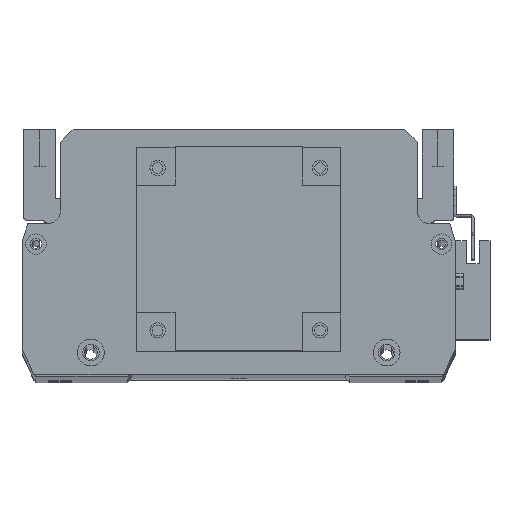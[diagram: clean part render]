
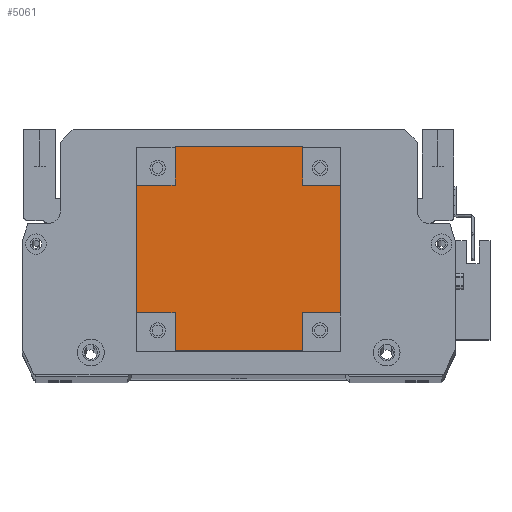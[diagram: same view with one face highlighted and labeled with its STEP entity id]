
A CAD part, top view. The second image highlights one B-rep face of the part: STEP entity #5061.
In plain terms, the highlighted planar face has unit normal (0, 0, 1).
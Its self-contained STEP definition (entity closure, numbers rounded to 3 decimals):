
#335 = CARTESIAN_POINT ( 'NONE',  ( 0., 65., 101.5 ) ) ;
#412 = AXIS2_PLACEMENT_3D ( 'NONE', #24466, #12126, #26517 ) ;
#799 = VERTEX_POINT ( 'NONE', #24603 ) ;
#985 = EDGE_CURVE ( 'NONE', #21465, #7611, #22946, .T. ) ;
#1642 = ORIENTED_EDGE ( 'NONE', *, *, #22476, .T. ) ;
#2123 = VECTOR ( 'NONE', #7867, 1000. ) ;
#2251 = CARTESIAN_POINT ( 'NONE',  ( 65., 15., 101.5 ) ) ;
#2610 = DIRECTION ( 'NONE',  ( 1., 0., 0. ) ) ;
#2777 = CARTESIAN_POINT ( 'NONE',  ( 80., 15., 101.5 ) ) ;
#2808 = VECTOR ( 'NONE', #26504, 1000. ) ;
#2810 = LINE ( 'NONE', #5722, #2123 ) ;
#3061 = EDGE_CURVE ( 'NONE', #799, #10096, #8021, .T. ) ;
#3127 = EDGE_LOOP ( 'NONE', ( #14073, #18592, #12768, #19416, #12407, #12089, #12746, #8766, #13937, #1642, #15988, #13535 ) ) ;
#3758 = PLANE ( 'NONE',  #412 ) ;
#3980 = LINE ( 'NONE', #19376, #25345 ) ;
#4172 = CARTESIAN_POINT ( 'NONE',  ( 65., 0., 101.5 ) ) ;
#4739 = CARTESIAN_POINT ( 'NONE',  ( 15., 15., 101.5 ) ) ;
#4941 = VERTEX_POINT ( 'NONE', #5648 ) ;
#5061 = ADVANCED_FACE ( 'NONE', ( #20516 ), #3758, .F. ) ;
#5648 = CARTESIAN_POINT ( 'NONE',  ( 0., 65., 101.5 ) ) ;
#5722 = CARTESIAN_POINT ( 'NONE',  ( 0., 15., 101.5 ) ) ;
#6185 = VERTEX_POINT ( 'NONE', #21420 ) ;
#6261 = VERTEX_POINT ( 'NONE', #15331 ) ;
#6757 = CARTESIAN_POINT ( 'NONE',  ( 15., 65., 101.5 ) ) ;
#7241 = VECTOR ( 'NONE', #18939, 1000. ) ;
#7363 = VECTOR ( 'NONE', #14728, 1000. ) ;
#7611 = VERTEX_POINT ( 'NONE', #4172 ) ;
#7797 = CARTESIAN_POINT ( 'NONE',  ( 0., 0., 101.5 ) ) ;
#7801 = EDGE_CURVE ( 'NONE', #11224, #21465, #16849, .T. ) ;
#7867 = DIRECTION ( 'NONE',  ( -1., 0., 0. ) ) ;
#7984 = CARTESIAN_POINT ( 'NONE',  ( 65., 0., 101.5 ) ) ;
#8021 = LINE ( 'NONE', #12652, #7363 ) ;
#8160 = DIRECTION ( 'NONE',  ( 0., -1., 0. ) ) ;
#8166 = VECTOR ( 'NONE', #2610, 1000. ) ;
#8252 = VECTOR ( 'NONE', #11360, 1000. ) ;
#8622 = CARTESIAN_POINT ( 'NONE',  ( 15., 80., 101.5 ) ) ;
#8766 = ORIENTED_EDGE ( 'NONE', *, *, #985, .F. ) ;
#9199 = DIRECTION ( 'NONE',  ( -1., 0., 0. ) ) ;
#9237 = VERTEX_POINT ( 'NONE', #6757 ) ;
#9445 = LINE ( 'NONE', #7797, #19757 ) ;
#10005 = VERTEX_POINT ( 'NONE', #4739 ) ;
#10096 = VERTEX_POINT ( 'NONE', #15292 ) ;
#10249 = VERTEX_POINT ( 'NONE', #13647 ) ;
#10685 = CARTESIAN_POINT ( 'NONE',  ( 15., 0., 101.5 ) ) ;
#10896 = VECTOR ( 'NONE', #25040, 1000. ) ;
#11224 = VERTEX_POINT ( 'NONE', #17303 ) ;
#11348 = VECTOR ( 'NONE', #9199, 1000. ) ;
#11360 = DIRECTION ( 'NONE',  ( 1., 0., 0. ) ) ;
#12031 = VECTOR ( 'NONE', #8160, 1000. ) ;
#12089 = ORIENTED_EDGE ( 'NONE', *, *, #16425, .F. ) ;
#12126 = DIRECTION ( 'NONE',  ( 0., 0., -1. ) ) ;
#12407 = ORIENTED_EDGE ( 'NONE', *, *, #18741, .F. ) ;
#12652 = CARTESIAN_POINT ( 'NONE',  ( 65., 80., 101.5 ) ) ;
#12746 = ORIENTED_EDGE ( 'NONE', *, *, #21227, .T. ) ;
#12750 = DIRECTION ( 'NONE',  ( 0., 1., 0. ) ) ;
#12768 = ORIENTED_EDGE ( 'NONE', *, *, #20236, .F. ) ;
#13409 = CARTESIAN_POINT ( 'NONE',  ( 65., 65., 101.5 ) ) ;
#13535 = ORIENTED_EDGE ( 'NONE', *, *, #3061, .F. ) ;
#13647 = CARTESIAN_POINT ( 'NONE',  ( 0., 15., 101.5 ) ) ;
#13937 = ORIENTED_EDGE ( 'NONE', *, *, #7801, .F. ) ;
#14073 = ORIENTED_EDGE ( 'NONE', *, *, #25553, .T. ) ;
#14175 = CARTESIAN_POINT ( 'NONE',  ( 80., 0., 101.5 ) ) ;
#14584 = EDGE_CURVE ( 'NONE', #10096, #18812, #18629, .T. ) ;
#14728 = DIRECTION ( 'NONE',  ( 0., -1., 0. ) ) ;
#14869 = CARTESIAN_POINT ( 'NONE',  ( 0., 0., 101.5 ) ) ;
#15292 = CARTESIAN_POINT ( 'NONE',  ( 65., 65., 101.5 ) ) ;
#15331 = CARTESIAN_POINT ( 'NONE',  ( 15., 0., 101.5 ) ) ;
#15988 = ORIENTED_EDGE ( 'NONE', *, *, #14584, .F. ) ;
#16425 = EDGE_CURVE ( 'NONE', #6261, #10005, #23028, .T. ) ;
#16849 = LINE ( 'NONE', #2777, #11348 ) ;
#17303 = CARTESIAN_POINT ( 'NONE',  ( 80., 15., 101.5 ) ) ;
#18592 = ORIENTED_EDGE ( 'NONE', *, *, #25428, .F. ) ;
#18629 = LINE ( 'NONE', #13409, #8252 ) ;
#18741 = EDGE_CURVE ( 'NONE', #10005, #10249, #2810, .T. ) ;
#18812 = VERTEX_POINT ( 'NONE', #20303 ) ;
#18939 = DIRECTION ( 'NONE',  ( 0., 1., 0. ) ) ;
#19376 = CARTESIAN_POINT ( 'NONE',  ( 0., 80., 101.5 ) ) ;
#19416 = ORIENTED_EDGE ( 'NONE', *, *, #24597, .T. ) ;
#19757 = VECTOR ( 'NONE', #22201, 1000. ) ;
#20236 = EDGE_CURVE ( 'NONE', #4941, #9237, #24635, .T. ) ;
#20303 = CARTESIAN_POINT ( 'NONE',  ( 80., 65., 101.5 ) ) ;
#20516 = FACE_OUTER_BOUND ( 'NONE', #3127, .T. ) ;
#20538 = LINE ( 'NONE', #14869, #10896 ) ;
#21227 = EDGE_CURVE ( 'NONE', #6261, #7611, #9445, .T. ) ;
#21409 = DIRECTION ( 'NONE',  ( -1., 0., 0. ) ) ;
#21420 = CARTESIAN_POINT ( 'NONE',  ( 15., 80., 101.5 ) ) ;
#21465 = VERTEX_POINT ( 'NONE', #2251 ) ;
#21759 = VECTOR ( 'NONE', #12750, 1000. ) ;
#22201 = DIRECTION ( 'NONE',  ( 1., 0., 0. ) ) ;
#22476 = EDGE_CURVE ( 'NONE', #11224, #18812, #25489, .T. ) ;
#22946 = LINE ( 'NONE', #7984, #12031 ) ;
#23028 = LINE ( 'NONE', #10685, #21759 ) ;
#23063 = LINE ( 'NONE', #8622, #7241 ) ;
#24466 = CARTESIAN_POINT ( 'NONE',  ( 0., 0., 101.5 ) ) ;
#24597 = EDGE_CURVE ( 'NONE', #4941, #10249, #20538, .T. ) ;
#24603 = CARTESIAN_POINT ( 'NONE',  ( 65., 80., 101.5 ) ) ;
#24635 = LINE ( 'NONE', #335, #8166 ) ;
#25040 = DIRECTION ( 'NONE',  ( 0., -1., 0. ) ) ;
#25345 = VECTOR ( 'NONE', #21409, 1000. ) ;
#25428 = EDGE_CURVE ( 'NONE', #9237, #6185, #23063, .T. ) ;
#25489 = LINE ( 'NONE', #14175, #2808 ) ;
#25553 = EDGE_CURVE ( 'NONE', #799, #6185, #3980, .T. ) ;
#26504 = DIRECTION ( 'NONE',  ( 0., 1., 0. ) ) ;
#26517 = DIRECTION ( 'NONE',  ( -1., 0., 0. ) ) ;
